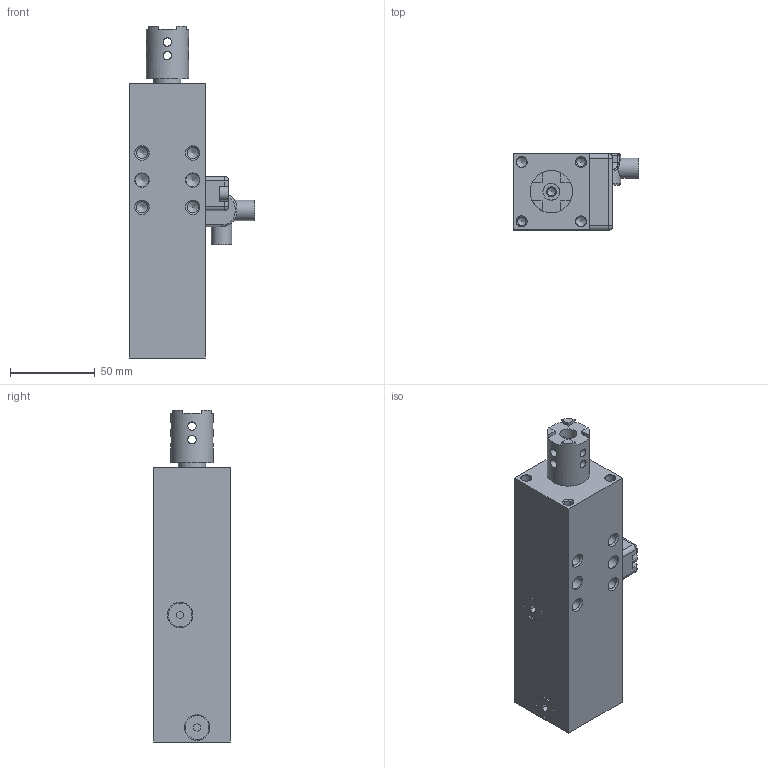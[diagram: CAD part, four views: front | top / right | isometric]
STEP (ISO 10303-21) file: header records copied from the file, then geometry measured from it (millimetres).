
FILE_DESCRIPTION(/* description */ (''),/* implementation_level */ '2;1');
FILE_NAME(/* name */ 'C:\PNX_VAULTFOLDER\Area Tecnica\Disegni\VARIE-3D\Componenti\7000\RP32######\RA32E40G2.stp',/* time_stamp */ '2018-10-30T11:32:12+01:00',/* author */ ('donadda1'),/* organization */ (''),/* preprocessor_version */ 'ST-DEVELOPER v17',/* originating_system */ 'Autodesk Inventor 2019',/* authorisation */ '');
FILE_SCHEMA (('AUTOMOTIVE_DESIGN { 1 0 10303 214 3 1 1 }'));
Length unit declared in the file: millimetre
Products named in the file (5): RA32E40G2; CENTRATORE_32-0040_DE; RA_ASTA_2-0040; ES001; ES001_CONN_90°
Assembly tree (4 placements, depth 2):
  RA32E40G2
    CENTRATORE_32-0040_DE
    RA_ASTA_2-0040
    ES001
    ES001_CONN_90°
Bounding box: 74.1 x 45 x 196 mm (x, y, z)
Volume: 363877.6 mm3; surface area: 65062.9 mm2
Topology: 4 solids, 4 shells, 272 faces, 717 edges, 484 vertices
Faces by surface type: plane 124, cylinder 91, cone 38, bspline 9, torus 8, sphere 2
Full cylindrical faces by diameter (mm): 4.134 x2, 4.917 x7, 5 x8, 5.489 x4, 6 x2, 6.647 x8, 8 x4, 8.5 x4, 8.566 x2, 10 x1, 12 x2, 14 x2, 15 x4, 16 x2, 25 x1
Entity records: 9347 total; most frequent: CARTESIAN_POINT 2284, DIRECTION 1469, ORIENTED_EDGE 1396, EDGE_CURVE 698, AXIS2_PLACEMENT_3D 555, VERTEX_POINT 484, LINE 359, VECTOR 359
